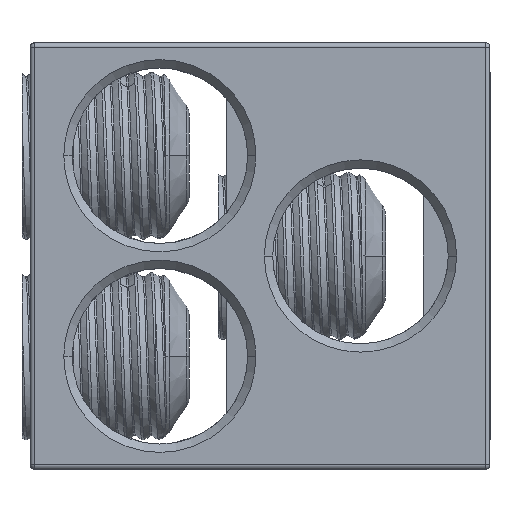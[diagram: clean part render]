
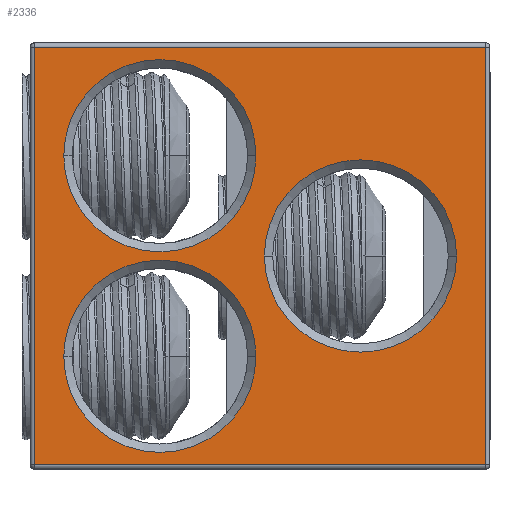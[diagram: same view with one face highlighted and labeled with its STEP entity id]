
A CAD part, left-side view. The second image highlights one B-rep face of the part: STEP entity #2336.
In plain terms, the highlighted planar face has unit normal (-1, 0, 0) as drawn and (1, 0, 0) by its records, which use the part's own axes.
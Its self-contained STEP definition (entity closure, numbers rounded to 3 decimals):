
#395=DIRECTION('',(0.,-1.,0.));
#396=VECTOR('',#395,50.);
#397=CARTESIAN_POINT('',(100.,2.5,0.5));
#398=LINE('',#397,#396);
#453=DIRECTION('',(0.,0.,1.));
#454=VECTOR('',#453,54.);
#455=CARTESIAN_POINT('',(100.,-47.5,0.5));
#456=LINE('',#455,#454);
#457=CARTESIAN_POINT('',(100.,-10.5,39.5));
#458=DIRECTION('',(-1.,0.,0.));
#459=DIRECTION('',(0.,0.,1.));
#460=AXIS2_PLACEMENT_3D('',#457,#458,#459);
#462=CARTESIAN_POINT('',(100.,-10.5,39.5));
#463=DIRECTION('',(-1.,0.,0.));
#464=DIRECTION('',(0.,0.,-1.));
#465=AXIS2_PLACEMENT_3D('',#462,#463,#464);
#467=CARTESIAN_POINT('',(100.,-22.5,15.5));
#468=DIRECTION('',(-1.,0.,0.));
#469=DIRECTION('',(0.,0.,1.));
#470=AXIS2_PLACEMENT_3D('',#467,#468,#469);
#472=CARTESIAN_POINT('',(100.,-22.5,15.5));
#473=DIRECTION('',(-1.,0.,0.));
#474=DIRECTION('',(0.,0.,-1.));
#475=AXIS2_PLACEMENT_3D('',#472,#473,#474);
#477=CARTESIAN_POINT('',(100.,-34.5,39.5));
#478=DIRECTION('',(-1.,0.,0.));
#479=DIRECTION('',(0.,0.,1.));
#480=AXIS2_PLACEMENT_3D('',#477,#478,#479);
#482=CARTESIAN_POINT('',(100.,-34.5,39.5));
#483=DIRECTION('',(-1.,0.,0.));
#484=DIRECTION('',(0.,0.,-1.));
#485=AXIS2_PLACEMENT_3D('',#482,#483,#484);
#491=DIRECTION('',(0.,1.,0.));
#492=VECTOR('',#491,50.);
#493=CARTESIAN_POINT('',(100.,-47.5,54.5));
#494=LINE('',#493,#492);
#558=DIRECTION('',(0.,0.,-1.));
#559=VECTOR('',#558,54.);
#560=CARTESIAN_POINT('',(100.,2.5,54.5));
#561=LINE('',#560,#559);
#1566=CARTESIAN_POINT('',(100.,-47.5,54.5));
#1567=CARTESIAN_POINT('',(100.,2.5,54.5));
#1568=VERTEX_POINT('',#1566);
#1569=VERTEX_POINT('',#1567);
#1570=CARTESIAN_POINT('',(100.,-47.5,0.5));
#1571=VERTEX_POINT('',#1570);
#1572=CARTESIAN_POINT('',(100.,2.5,0.5));
#1573=VERTEX_POINT('',#1572);
#1671=CARTESIAN_POINT('',(100.,-10.5,28.));
#1672=VERTEX_POINT('',#1671);
#1674=CARTESIAN_POINT('',(100.,-10.5,51.));
#1676=VERTEX_POINT('',#1674);
#1677=CARTESIAN_POINT('',(100.,-22.5,4.));
#1678=VERTEX_POINT('',#1677);
#1680=CARTESIAN_POINT('',(100.,-22.5,27.));
#1682=VERTEX_POINT('',#1680);
#1683=CARTESIAN_POINT('',(100.,-34.5,28.));
#1684=VERTEX_POINT('',#1683);
#1686=CARTESIAN_POINT('',(100.,-34.5,51.));
#1688=VERTEX_POINT('',#1686);
#2305=CARTESIAN_POINT('',(100.,-48.,0.));
#2306=DIRECTION('',(-1.,0.,0.));
#2307=DIRECTION('',(0.,0.,1.));
#2308=AXIS2_PLACEMENT_3D('',#2305,#2306,#2307);
#2309=PLANE('',#2308);
#2311=ORIENTED_EDGE('',*,*,#2310,.T.);
#2313=ORIENTED_EDGE('',*,*,#2312,.T.);
#2314=ORIENTED_EDGE('',*,*,#2215,.T.);
#2315=ORIENTED_EDGE('',*,*,#2300,.T.);
#2316=EDGE_LOOP('',(#2311,#2313,#2314,#2315));
#2317=FACE_OUTER_BOUND('',#2316,.F.);
#2319=ORIENTED_EDGE('',*,*,#2318,.F.);
#2321=ORIENTED_EDGE('',*,*,#2320,.F.);
#2322=EDGE_LOOP('',(#2319,#2321));
#2323=FACE_BOUND('',#2322,.F.);
#2325=ORIENTED_EDGE('',*,*,#2324,.F.);
#2327=ORIENTED_EDGE('',*,*,#2326,.F.);
#2328=EDGE_LOOP('',(#2325,#2327));
#2329=FACE_BOUND('',#2328,.F.);
#2331=ORIENTED_EDGE('',*,*,#2330,.F.);
#2333=ORIENTED_EDGE('',*,*,#2332,.F.);
#2334=EDGE_LOOP('',(#2331,#2333));
#2335=FACE_BOUND('',#2334,.F.);
#2336=ADVANCED_FACE('',(#2317,#2323,#2329,#2335),#2309,.F.);
#461=CIRCLE('',#460,11.5);
#466=CIRCLE('',#465,11.5);
#471=CIRCLE('',#470,11.5);
#476=CIRCLE('',#475,11.5);
#481=CIRCLE('',#480,11.5);
#486=CIRCLE('',#485,11.5);
#2215=EDGE_CURVE('',#1573,#1571,#398,.T.);
#2300=EDGE_CURVE('',#1571,#1568,#456,.T.);
#2310=EDGE_CURVE('',#1568,#1569,#494,.T.);
#2312=EDGE_CURVE('',#1569,#1573,#561,.T.);
#2318=EDGE_CURVE('',#1676,#1672,#461,.T.);
#2320=EDGE_CURVE('',#1672,#1676,#466,.T.);
#2324=EDGE_CURVE('',#1682,#1678,#471,.T.);
#2326=EDGE_CURVE('',#1678,#1682,#476,.T.);
#2330=EDGE_CURVE('',#1688,#1684,#481,.T.);
#2332=EDGE_CURVE('',#1684,#1688,#486,.T.);
